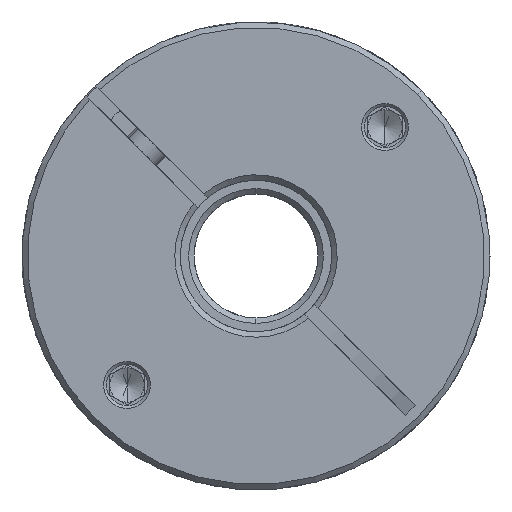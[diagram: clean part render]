
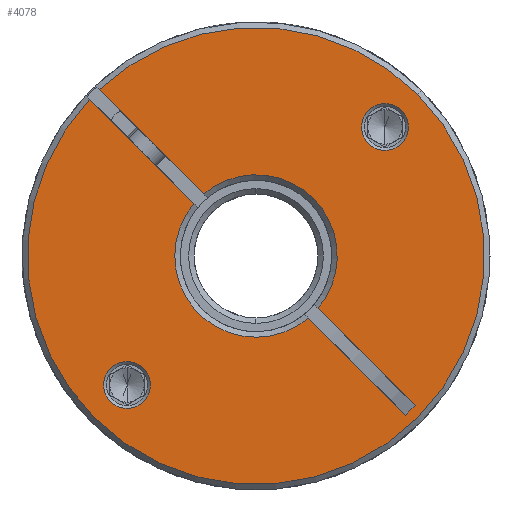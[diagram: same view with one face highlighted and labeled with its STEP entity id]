
A CAD part, front view. The second image highlights one B-rep face of the part: STEP entity #4078.
In plain terms, the highlighted planar face has unit normal (0, -1, 0).
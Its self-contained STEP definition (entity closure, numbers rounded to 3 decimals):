
#236 = EDGE_CURVE ( 'NONE', #12373, #4287, #14796, .T. ) ;
#247 = VERTEX_POINT ( 'NONE', #1366 ) ;
#343 = CARTESIAN_POINT ( 'NONE',  ( 18.407, -67.045, 89.142 ) ) ;
#466 = CARTESIAN_POINT ( 'NONE',  ( -21.473, -67.045, 49.262 ) ) ;
#592 = DIRECTION ( 'NONE',  ( 0.707, 0., -0.707 ) ) ;
#718 = CARTESIAN_POINT ( 'NONE',  ( 13.599, -67.045, 84.334 ) ) ;
#727 = ORIENTED_EDGE ( 'NONE', *, *, #14899, .T. ) ;
#1004 = CARTESIAN_POINT ( 'NONE',  ( 18.988, -67.045, 44.862 ) ) ;
#1014 = LINE ( 'NONE', #18998, #18137 ) ;
#1366 = CARTESIAN_POINT ( 'NONE',  ( -23.878, -67.045, 46.858 ) ) ;
#1382 = VERTEX_POINT ( 'NONE', #18916 ) ;
#1393 = ORIENTED_EDGE ( 'NONE', *, *, #14325, .T. ) ;
#1472 = CARTESIAN_POINT ( 'NONE',  ( -2.735, -67.045, 68. ) ) ;
#1539 = DIRECTION ( 'NONE',  ( 0.707, 0., 0.707 ) ) ;
#1547 = EDGE_LOOP ( 'NONE', ( #17586, #4806 ) ) ;
#1825 = CIRCLE ( 'NONE', #17216, 11.8 ) ;
#2075 = DIRECTION ( 'NONE',  ( 0.707, 0., 0.707 ) ) ;
#2202 = AXIS2_PLACEMENT_3D ( 'NONE', #10170, #15013, #2075 ) ;
#2392 = VERTEX_POINT ( 'NONE', #718 ) ;
#2594 = DIRECTION ( 'NONE',  ( 0.707, 0., -0.707 ) ) ;
#2839 = LINE ( 'NONE', #7098, #7197 ) ;
#2860 = DIRECTION ( 'NONE',  ( 0.707, 0., -0.707 ) ) ;
#2964 = EDGE_CURVE ( 'NONE', #1382, #6293, #3084, .T. ) ;
#3041 = DIRECTION ( 'NONE',  ( 0.707, 0., 0.707 ) ) ;
#3084 = CIRCLE ( 'NONE', #9627, 33.2 ) ;
#3311 = CARTESIAN_POINT ( 'NONE',  ( -19.069, -67.045, 51.666 ) ) ;
#3631 = CARTESIAN_POINT ( 'NONE',  ( 16.003, -67.045, 86.738 ) ) ;
#3692 = VERTEX_POINT ( 'NONE', #6932 ) ;
#3798 = VERTEX_POINT ( 'NONE', #12274 ) ;
#3823 = EDGE_LOOP ( 'NONE', ( #18833, #19596, #17602, #8625, #20799, #6720, #6323, #18304, #8304, #12442, #12355 ) ) ;
#4078 = ADVANCED_FACE ( 'NONE', ( #14188, #15481, #7980 ), #11643, .T. ) ;
#4287 = VERTEX_POINT ( 'NONE', #20695 ) ;
#4340 = DIRECTION ( 'NONE',  ( 0.707, 0., 0.707 ) ) ;
#4436 = CIRCLE ( 'NONE', #2202, 33.2 ) ;
#4791 = CARTESIAN_POINT ( 'NONE',  ( -2.735, -67.045, 68. ) ) ;
#4806 = ORIENTED_EDGE ( 'NONE', *, *, #12976, .T. ) ;
#4947 = DIRECTION ( 'NONE',  ( 0., 1., 0. ) ) ;
#5268 = DIRECTION ( 'NONE',  ( 0.707, 0., 0.707 ) ) ;
#5495 = EDGE_CURVE ( 'NONE', #10914, #3692, #18063, .T. ) ;
#6218 = VERTEX_POINT ( 'NONE', #9172 ) ;
#6281 = CARTESIAN_POINT ( 'NONE',  ( -2.735, -67.045, 68. ) ) ;
#6293 = VERTEX_POINT ( 'NONE', #14726 ) ;
#6323 = ORIENTED_EDGE ( 'NONE', *, *, #8850, .T. ) ;
#6336 = CARTESIAN_POINT ( 'NONE',  ( -2.735, -67.045, 68. ) ) ;
#6720 = ORIENTED_EDGE ( 'NONE', *, *, #236, .T. ) ;
#6727 = VECTOR ( 'NONE', #11286, 1000. ) ;
#6828 = EDGE_CURVE ( 'NONE', #6293, #12799, #11464, .T. ) ;
#6932 = CARTESIAN_POINT ( 'NONE',  ( -11.756, -67.045, 75.607 ) ) ;
#7098 = CARTESIAN_POINT ( 'NONE',  ( -3.442, -67.045, 67.293 ) ) ;
#7197 = VECTOR ( 'NONE', #592, 1000. ) ;
#7569 = CARTESIAN_POINT ( 'NONE',  ( -2.735, -67.045, 68. ) ) ;
#7980 = FACE_OUTER_BOUND ( 'NONE', #3823, .T. ) ;
#8074 = EDGE_CURVE ( 'NONE', #12799, #3798, #4436, .T. ) ;
#8091 = EDGE_LOOP ( 'NONE', ( #727, #1393 ) ) ;
#8304 = ORIENTED_EDGE ( 'NONE', *, *, #20383, .T. ) ;
#8406 = CIRCLE ( 'NONE', #8867, 3.4 ) ;
#8435 = LINE ( 'NONE', #13979, #8693 ) ;
#8560 = DIRECTION ( 'NONE',  ( 0.707, 0., 0.707 ) ) ;
#8625 = ORIENTED_EDGE ( 'NONE', *, *, #8074, .T. ) ;
#8693 = VECTOR ( 'NONE', #15659, 1000. ) ;
#8786 = DIRECTION ( 'NONE',  ( 0.707, 0., 0.707 ) ) ;
#8850 = EDGE_CURVE ( 'NONE', #4287, #15008, #1825, .T. ) ;
#8867 = AXIS2_PLACEMENT_3D ( 'NONE', #3631, #20240, #5268 ) ;
#9172 = CARTESIAN_POINT ( 'NONE',  ( 20.402, -67.045, 46.277 ) ) ;
#9285 = VERTEX_POINT ( 'NONE', #343 ) ;
#9313 = CARTESIAN_POINT ( 'NONE',  ( 20.741, -67.045, 91.476 ) ) ;
#9360 = EDGE_CURVE ( 'NONE', #1382, #3692, #1014, .T. ) ;
#9627 = AXIS2_PLACEMENT_3D ( 'NONE', #7569, #17520, #15915 ) ;
#9931 = AXIS2_PLACEMENT_3D ( 'NONE', #1472, #21431, #1539 ) ;
#10039 = AXIS2_PLACEMENT_3D ( 'NONE', #19095, #12523, #4340 ) ;
#10118 = EDGE_CURVE ( 'NONE', #10914, #13991, #2839, .T. ) ;
#10170 = CARTESIAN_POINT ( 'NONE',  ( -2.735, -67.045, 68. ) ) ;
#10492 = DIRECTION ( 'NONE',  ( 0., 1., 0. ) ) ;
#10836 = AXIS2_PLACEMENT_3D ( 'NONE', #466, #17213, #8786 ) ;
#10914 = VERTEX_POINT ( 'NONE', #21411 ) ;
#11054 = EDGE_CURVE ( 'NONE', #9285, #2392, #8406, .T. ) ;
#11286 = DIRECTION ( 'NONE',  ( -0.707, 0., -0.707 ) ) ;
#11464 = CIRCLE ( 'NONE', #16765, 33.2 ) ;
#11643 = PLANE ( 'NONE',  #16579 ) ;
#11647 = LINE ( 'NONE', #21273, #6727 ) ;
#11877 = CARTESIAN_POINT ( 'NONE',  ( 16.003, -67.045, 86.738 ) ) ;
#12274 = CARTESIAN_POINT ( 'NONE',  ( -25.493, -67.045, 92.172 ) ) ;
#12303 = DIRECTION ( 'NONE',  ( 0.707, 0., 0.707 ) ) ;
#12355 = ORIENTED_EDGE ( 'NONE', *, *, #5495, .T. ) ;
#12373 = VERTEX_POINT ( 'NONE', #21148 ) ;
#12401 = EDGE_CURVE ( 'NONE', #15008, #6218, #17221, .T. ) ;
#12442 = ORIENTED_EDGE ( 'NONE', *, *, #10118, .F. ) ;
#12516 = CIRCLE ( 'NONE', #21452, 3.4 ) ;
#12523 = DIRECTION ( 'NONE',  ( 0., 1., 0. ) ) ;
#12624 = CARTESIAN_POINT ( 'NONE',  ( -2.028, -67.045, 68.707 ) ) ;
#12799 = VERTEX_POINT ( 'NONE', #9313 ) ;
#12958 = DIRECTION ( 'NONE',  ( 0., -1., 0. ) ) ;
#12976 = EDGE_CURVE ( 'NONE', #2392, #9285, #12516, .T. ) ;
#13173 = AXIS2_PLACEMENT_3D ( 'NONE', #6336, #16212, #18167 ) ;
#13979 = CARTESIAN_POINT ( 'NONE',  ( -2.028, -67.045, 68.707 ) ) ;
#13991 = VERTEX_POINT ( 'NONE', #1004 ) ;
#14090 = VECTOR ( 'NONE', #2860, 1000. ) ;
#14188 = FACE_BOUND ( 'NONE', #1547, .T. ) ;
#14325 = EDGE_CURVE ( 'NONE', #247, #17178, #20289, .T. ) ;
#14726 = CARTESIAN_POINT ( 'NONE',  ( -26.211, -67.045, 44.524 ) ) ;
#14796 = CIRCLE ( 'NONE', #13173, 11.8 ) ;
#14899 = EDGE_CURVE ( 'NONE', #17178, #247, #18694, .T. ) ;
#15008 = VERTEX_POINT ( 'NONE', #17698 ) ;
#15013 = DIRECTION ( 'NONE',  ( 0., -1., 0. ) ) ;
#15481 = FACE_BOUND ( 'NONE', #8091, .T. ) ;
#15659 = DIRECTION ( 'NONE',  ( 0.707, 0., -0.707 ) ) ;
#15915 = DIRECTION ( 'NONE',  ( 0.707, 0., 0.707 ) ) ;
#16212 = DIRECTION ( 'NONE',  ( 0., 1., 0. ) ) ;
#16579 = AXIS2_PLACEMENT_3D ( 'NONE', #4791, #21497, #21354 ) ;
#16765 = AXIS2_PLACEMENT_3D ( 'NONE', #6281, #12958, #3041 ) ;
#17178 = VERTEX_POINT ( 'NONE', #3311 ) ;
#17213 = DIRECTION ( 'NONE',  ( 0., 1., 0. ) ) ;
#17216 = AXIS2_PLACEMENT_3D ( 'NONE', #18862, #10492, #12303 ) ;
#17221 = LINE ( 'NONE', #12624, #14090 ) ;
#17424 = EDGE_CURVE ( 'NONE', #3798, #12373, #8435, .T. ) ;
#17520 = DIRECTION ( 'NONE',  ( 0., -1., 0. ) ) ;
#17586 = ORIENTED_EDGE ( 'NONE', *, *, #11054, .T. ) ;
#17602 = ORIENTED_EDGE ( 'NONE', *, *, #6828, .T. ) ;
#17698 = CARTESIAN_POINT ( 'NONE',  ( 6.286, -67.045, 60.393 ) ) ;
#18063 = CIRCLE ( 'NONE', #9931, 11.8 ) ;
#18137 = VECTOR ( 'NONE', #2594, 1000. ) ;
#18167 = DIRECTION ( 'NONE',  ( 0.707, 0., 0.707 ) ) ;
#18304 = ORIENTED_EDGE ( 'NONE', *, *, #12401, .T. ) ;
#18694 = CIRCLE ( 'NONE', #10039, 3.4 ) ;
#18833 = ORIENTED_EDGE ( 'NONE', *, *, #9360, .F. ) ;
#18862 = CARTESIAN_POINT ( 'NONE',  ( -2.735, -67.045, 68. ) ) ;
#18916 = CARTESIAN_POINT ( 'NONE',  ( -26.908, -67.045, 90.758 ) ) ;
#18998 = CARTESIAN_POINT ( 'NONE',  ( -3.442, -67.045, 67.293 ) ) ;
#19095 = CARTESIAN_POINT ( 'NONE',  ( -21.473, -67.045, 49.262 ) ) ;
#19596 = ORIENTED_EDGE ( 'NONE', *, *, #2964, .T. ) ;
#20240 = DIRECTION ( 'NONE',  ( 0., 1., 0. ) ) ;
#20289 = CIRCLE ( 'NONE', #10836, 3.4 ) ;
#20383 = EDGE_CURVE ( 'NONE', #6218, #13991, #11647, .T. ) ;
#20695 = CARTESIAN_POINT ( 'NONE',  ( 5.609, -67.045, 76.344 ) ) ;
#20799 = ORIENTED_EDGE ( 'NONE', *, *, #17424, .T. ) ;
#21148 = CARTESIAN_POINT ( 'NONE',  ( -10.342, -67.045, 77.021 ) ) ;
#21273 = CARTESIAN_POINT ( 'NONE',  ( 18.988, -67.045, 44.862 ) ) ;
#21354 = DIRECTION ( 'NONE',  ( 0.707, 0., 0.707 ) ) ;
#21411 = CARTESIAN_POINT ( 'NONE',  ( 4.872, -67.045, 58.979 ) ) ;
#21431 = DIRECTION ( 'NONE',  ( 0., 1., 0. ) ) ;
#21452 = AXIS2_PLACEMENT_3D ( 'NONE', #11877, #4947, #8560 ) ;
#21497 = DIRECTION ( 'NONE',  ( 0., -1., 0. ) ) ;
